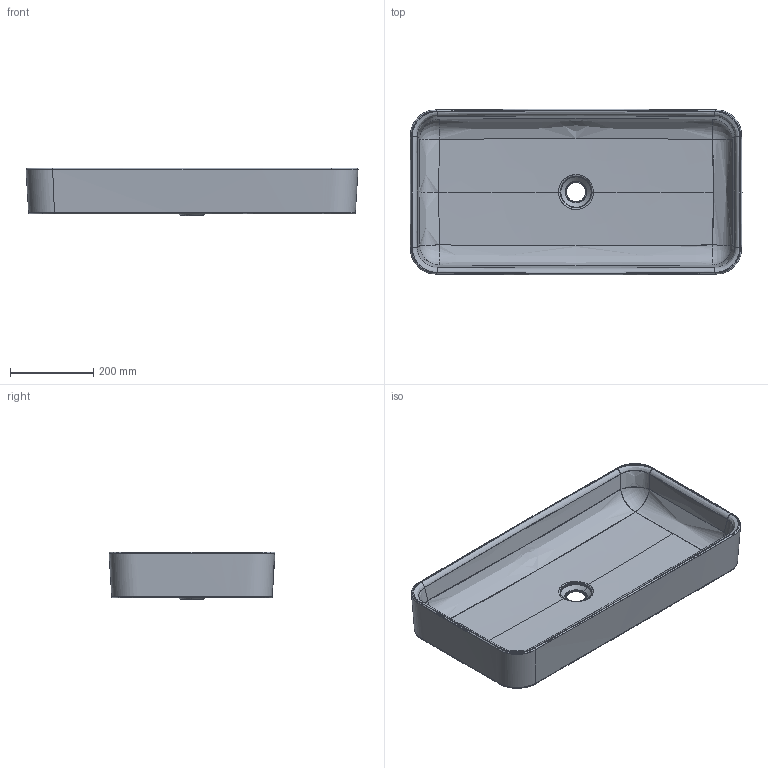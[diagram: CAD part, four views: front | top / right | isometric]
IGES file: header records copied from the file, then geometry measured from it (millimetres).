
Start section: SolidWorks IGES file using analytic representation for surfaces
Global section: file name: J:\zeichng\Produktdaten Homepage\3D_IGES\BE3C_Art_A182.IGS; native system: SolidWorks 2018; preprocessor: SolidWorks 2018; author: jbuschkroeger; date: 181205.155516; units: millimetre
Bounding box: 799.57 x 399.52 x 115 mm (x, y, z)
Surface area: 1414310.5 mm2 (no closed solid volume)
Topology: 0 solids, 0 shells, 108 faces, 2121 edges, 2121 vertices
Faces by surface type: bspline 86, revolution 22
